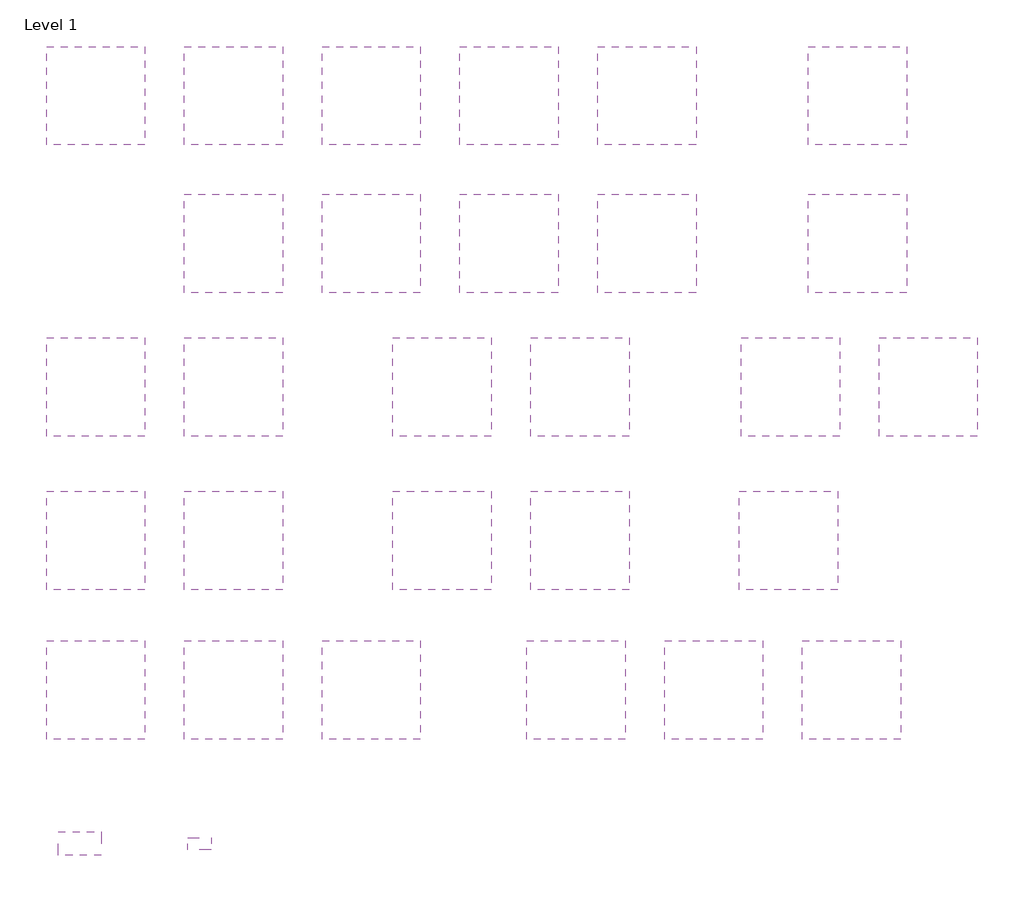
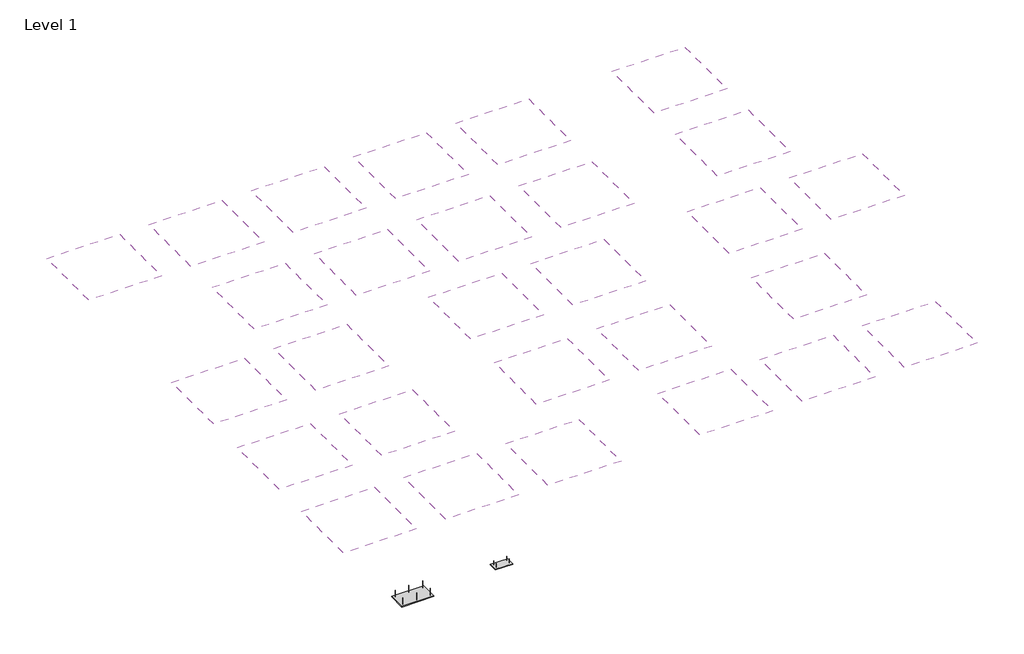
# One storey: 28 coverings, 2 proxies.
"""IFC4 building model written with IfcOpenShell, lengths in millimetres."""

from ifc_helpers import new_model, si_unit, frame, origin, place, context, project, spatial, polyline, outline, extrude, transform, mapped, element, save
from components import proxy_1200x2200mm_9f85cad4, proxy_1200x600mm_5f30a447

model = new_model("IFC4")

# Units and contexts
model_context = context("Model", 3, world=origin())
ifc_project = project(units=[si_unit("LENGTHUNIT", "METRE", prefix="MILLI")], contexts=[model_context])

# Site, building, storey
site = spatial("IfcSite", under=ifc_project)
building = spatial("IfcBuilding", under=site)
storey = spatial("IfcBuildingStorey", under=building, Name="Level 1", Elevation=0.0)

# Proxies
placement = place(None, origin())
proxy_1200x2200mm_shape = proxy_1200x2200mm_9f85cad4(model_context)
element("IfcBuildingElementProxy", 1, Name="Phonic Silence Cloud Panel : 1200x2200mm", ObjectType="Phonic Silence Cloud Panel : 1200x2200mm", at=placement, inside=storey, context=model_context, shape_type="MappedRepresentation", body=[
    mapped(proxy_1200x2200mm_shape, transform((-13614.1794993, -20300.5678495, 2600.0), x_axis=(1.0, 0.0, 0.0), y_axis=(0.0, -1.0, 0.0), z_axis=(0.0, 0.0, -1.0))),
])
proxy_1200x600mm_shape = proxy_1200x600mm_5f30a447(model_context)
element("IfcBuildingElementProxy", 2, Name="Phonic Silence Cloud Panel : 1200x600mm", ObjectType="Phonic Silence Cloud Panel : 1200x600mm", at=placement, inside=storey, context=model_context, shape_type="MappedRepresentation", body=[
    mapped(proxy_1200x600mm_shape, transform((-7534.1794993, -20300.5678495, 2600.0), x_axis=(1.0, 0.0, 0.0), y_axis=(0.0, -1.0, 0.0), z_axis=(0.0, 0.0, -1.0))),
])

# Coverings
element("IfcCovering", 3, ObjectType="Phonic Absorb 600x600mm", at=placement, inside=storey, context=model_context, shape_type="SweptSolid", body=[
    extrude(outline(polyline([(-10300.0, 15200.0), (-15300.0, 15200.0), (-15300.0, 20200.0), (-10300.0, 20200.0), (-10300.0, 15200.0)])), frame((0.0, 0.0, 2600.0), z_axis=(0.0, 0.0, 1.0), x_axis=(1.0, 0.0, 0.0)), (0.0, 0.0, 1.0), 38.0),
])
element("IfcCovering", 4, ObjectType="Phonic Combo+ 1200x300mm", at=placement, inside=storey, context=model_context, shape_type="SweptSolid", body=[
    extrude(outline(polyline([(-3300.0, 7700.0), (-8300.0, 7700.0), (-8300.0, 12700.0), (-3300.0, 12700.0), (-3300.0, 7700.0)])), frame((0.0, 0.0, 2600.0), z_axis=(0.0, 0.0, 1.0), x_axis=(1.0, 0.0, 0.0)), (0.0, 0.0, 1.0), 38.0),
])
element("IfcCovering", 5, ObjectType="Phonic Absorb 1200x300mm", at=placement, inside=storey, context=model_context, shape_type="SweptSolid", body=[
    extrude(outline(polyline([(-3300.0, 15200.0), (-8300.0, 15200.0), (-8300.0, 20200.0), (-3300.0, 20200.0), (-3300.0, 15200.0)])), frame((0.0, 0.0, 2600.0), z_axis=(0.0, 0.0, 1.0), x_axis=(1.0, 0.0, 0.0)), (0.0, 0.0, 1.0), 38.0),
])
element("IfcCovering", 6, ObjectType="Phonic Combo+ 1200x600mm", at=placement, inside=storey, context=model_context, shape_type="SweptSolid", body=[
    extrude(outline(polyline([(3700.0, 7700.0), (-1300.0, 7700.0), (-1300.0, 12700.0), (3700.0, 12700.0), (3700.0, 7700.0)])), frame((0.0, 0.0, 2600.0), z_axis=(0.0, 0.0, 1.0), x_axis=(1.0, 0.0, 0.0)), (0.0, 0.0, 1.0), 38.0),
])
element("IfcCovering", 7, ObjectType="Phonic Absorb 1200x600mm", at=placement, inside=storey, context=model_context, shape_type="SweptSolid", body=[
    extrude(outline(polyline([(3700.0, 15200.0), (-1300.0, 15200.0), (-1300.0, 20200.0), (3700.0, 20200.0), (3700.0, 15200.0)])), frame((0.0, 0.0, 2600.0), z_axis=(0.0, 0.0, 1.0), x_axis=(1.0, 0.0, 0.0)), (0.0, 0.0, 1.0), 38.0),
])
element("IfcCovering", 8, ObjectType="Phonic Combo+ 1500x300mm", at=placement, inside=storey, context=model_context, shape_type="SweptSolid", body=[
    extrude(outline(polyline([(10700.0, 7700.0), (5700.0, 7700.0), (5700.0, 12700.0), (10700.0, 12700.0), (10700.0, 7700.0)])), frame((0.0, 0.0, 2600.0), z_axis=(0.0, 0.0, 1.0), x_axis=(1.0, 0.0, 0.0)), (0.0, 0.0, 1.0), 38.0),
])
element("IfcCovering", 9, ObjectType="Phonic Absorb 1500x300mm", at=placement, inside=storey, context=model_context, shape_type="SweptSolid", body=[
    extrude(outline(polyline([(10700.0, 15200.0), (5700.0, 15200.0), (5700.0, 20200.0), (10700.0, 20200.0), (10700.0, 15200.0)])), frame((0.0, 0.0, 2600.0), z_axis=(0.0, 0.0, 1.0), x_axis=(1.0, 0.0, 0.0)), (0.0, 0.0, 1.0), 38.0),
])
element("IfcCovering", 10, ObjectType="Phonic Combo+ 2400x600mm", at=placement, inside=storey, context=model_context, shape_type="SweptSolid", body=[
    extrude(outline(polyline([(17700.0, 7700.0), (12700.0, 7700.0), (12700.0, 12700.0), (17700.0, 12700.0), (17700.0, 7700.0)])), frame((0.0, 0.0, 2600.0), z_axis=(0.0, 0.0, 1.0), x_axis=(1.0, 0.0, 0.0)), (0.0, 0.0, 1.0), 38.0),
])
element("IfcCovering", 11, ObjectType="Phonic Absorb 2400x600mm", at=placement, inside=storey, context=model_context, shape_type="SweptSolid", body=[
    extrude(outline(polyline([(17700.0, 15200.0), (12700.0, 15200.0), (12700.0, 20200.0), (17700.0, 20200.0), (17700.0, 15200.0)])), frame((0.0, 0.0, 2600.0), z_axis=(0.0, 0.0, 1.0), x_axis=(1.0, 0.0, 0.0)), (0.0, 0.0, 1.0), 38.0),
])
element("IfcCovering", 12, ObjectType="Phonic Direct Fix 600x600mm", at=placement, inside=storey, context=model_context, shape_type="SweptSolid", body=[
    extrude(outline(polyline([(7300.0, 400.0), (2300.0, 400.0), (2300.0, 5400.0), (7300.0, 5400.0), (7300.0, 400.0)])), frame((0.0, 0.0, 2600.0), z_axis=(0.0, 0.0, 1.0), x_axis=(1.0, 0.0, 0.0)), (0.0, 0.0, 1.0), 20.0),
])
element("IfcCovering", 13, ObjectType="Phonic Direct Fix 1200x600mm", at=placement, inside=storey, context=model_context, shape_type="SweptSolid", body=[
    extrude(outline(polyline([(14300.0, 400.0), (9300.0, 400.0), (9300.0, 5400.0), (14300.0, 5400.0), (14300.0, 400.0)])), frame((0.0, 0.0, 2600.0), z_axis=(0.0, 0.0, 1.0), x_axis=(1.0, 0.0, 0.0)), (0.0, 0.0, 1.0), 20.0),
])
element("IfcCovering", 14, ObjectType="Phonic Direct Fix 600x600mm on 35mm Battens", at=placement, inside=storey, context=model_context, shape_type="SweptSolid", body=[
    extrude(outline(polyline([(25000.0, 400.0), (20000.0, 400.0), (20000.0, 5400.0), (25000.0, 5400.0), (25000.0, 400.0)])), frame((0.0, 0.0, 2600.0), z_axis=(0.0, 0.0, 1.0), x_axis=(1.0, 0.0, 0.0)), (0.0, 0.0, 1.0), 55.0),
])
element("IfcCovering", 15, ObjectType="Phonic Direct Fix 1200x600mm on 35mm Battens", at=placement, inside=storey, context=model_context, shape_type="SweptSolid", body=[
    extrude(outline(polyline([(32000.0, 400.0), (27000.0, 400.0), (27000.0, 5400.0), (32000.0, 5400.0), (32000.0, 400.0)])), frame((0.0, 0.0, 2600.0), z_axis=(0.0, 0.0, 1.0), x_axis=(1.0, 0.0, 0.0)), (0.0, 0.0, 1.0), 55.0),
])
element("IfcCovering", 16, ObjectType="Phonic Tech 1200x600", at=placement, inside=storey, context=model_context, shape_type="SweptSolid", body=[
    extrude(outline(polyline([(28400.0, 7700.0), (23400.0, 7700.0), (23400.0, 12700.0), (28400.0, 12700.0), (28400.0, 7700.0)])), frame((0.0, 0.0, 2600.0), z_axis=(0.0, 0.0, 1.0), x_axis=(1.0, 0.0, 0.0)), (0.0, 0.0, 1.0), 38.0),
])
element("IfcCovering", 17, ObjectType="Phonic Impact 1200x600mm", at=placement, inside=storey, context=model_context, shape_type="SweptSolid", body=[
    extrude(outline(polyline([(28400.0, 15200.0), (23400.0, 15200.0), (23400.0, 20200.0), (28400.0, 20200.0), (28400.0, 15200.0)])), frame((0.0, 0.0, 2600.0), z_axis=(0.0, 0.0, 1.0), x_axis=(1.0, 0.0, 0.0)), (0.0, 0.0, 1.0), 40.0),
])
element("IfcCovering", 18, ObjectType="Phonic Fine Fissured 600x600mm", at=placement, inside=storey, context=model_context, shape_type="SweptSolid", body=[
    extrude(outline(polyline([(-10300.0, -7400.0), (-15300.0, -7400.0), (-15300.0, -2400.0), (-10300.0, -2400.0), (-10300.0, -7400.0)])), frame((0.0, 0.0, 2600.0), z_axis=(0.0, 0.0, 1.0), x_axis=(1.0, 0.0, 0.0)), (0.0, 0.0, 1.0), 38.0),
])
element("IfcCovering", 19, ObjectType="Phonic Fine Fissured 1200x600mm", at=placement, inside=storey, context=model_context, shape_type="SweptSolid", body=[
    extrude(outline(polyline([(-3300.0, -7400.0), (-8300.0, -7400.0), (-8300.0, -2400.0), (-3300.0, -2400.0), (-3300.0, -7400.0)])), frame((0.0, 0.0, 2600.0), z_axis=(0.0, 0.0, 1.0), x_axis=(1.0, 0.0, 0.0)), (0.0, 0.0, 1.0), 38.0),
])
element("IfcCovering", 20, ObjectType="Phonic Gypsum Vinyl 1200x600", at=placement, inside=storey, context=model_context, shape_type="SweptSolid", body=[
    extrude(outline(polyline([(24900.0, -7400.0), (19900.0, -7400.0), (19900.0, -2400.0), (24900.0, -2400.0), (24900.0, -7400.0)])), frame((0.0, 0.0, 2600.0), z_axis=(0.0, 0.0, 1.0), x_axis=(1.0, 0.0, 0.0)), (0.0, 0.0, 1.0), 37.0),
])
element("IfcCovering", 21, ObjectType="Phonic NDF 600x600mm", at=placement, inside=storey, context=model_context, shape_type="SweptSolid", body=[
    extrude(outline(polyline([(7300.0, -7400.0), (2300.0, -7400.0), (2300.0, -2400.0), (7300.0, -2400.0), (7300.0, -7400.0)])), frame((0.0, 0.0, 2600.0), z_axis=(0.0, 0.0, 1.0), x_axis=(1.0, 0.0, 0.0)), (0.0, 0.0, 1.0), 38.0),
])
element("IfcCovering", 22, ObjectType="Phonic NDF 1200x600mm", at=placement, inside=storey, context=model_context, shape_type="SweptSolid", body=[
    extrude(outline(polyline([(14300.0, -7400.0), (9300.0, -7400.0), (9300.0, -2400.0), (14300.0, -2400.0), (14300.0, -7400.0)])), frame((0.0, 0.0, 2600.0), z_axis=(0.0, 0.0, 1.0), x_axis=(1.0, 0.0, 0.0)), (0.0, 0.0, 1.0), 38.0),
])
element("IfcCovering", 23, ObjectType="Phonic Harmony 600x600x15mm", at=placement, inside=storey, context=model_context, shape_type="SweptSolid", body=[
    extrude(outline(polyline([(-10300.0, -15000.0), (-15300.0, -15000.0), (-15300.0, -10000.0), (-10300.0, -10000.0), (-10300.0, -15000.0)])), frame((0.0, 0.0, 2600.0), z_axis=(0.0, 0.0, 1.0), x_axis=(1.0, 0.0, 0.0)), (0.0, 0.0, 1.0), 38.0),
])
element("IfcCovering", 24, ObjectType="Phonic Harmony 1200x300x15mm", at=placement, inside=storey, context=model_context, shape_type="SweptSolid", body=[
    extrude(outline(polyline([(-3300.0, -15000.0), (-8300.0, -15000.0), (-8300.0, -10000.0), (-3300.0, -10000.0), (-3300.0, -15000.0)])), frame((0.0, 0.0, 2600.0), z_axis=(0.0, 0.0, 1.0), x_axis=(1.0, 0.0, 0.0)), (0.0, 0.0, 1.0), 38.0),
])
element("IfcCovering", 25, ObjectType="Phonic Harmony 1200x600x15mm", at=placement, inside=storey, context=model_context, shape_type="SweptSolid", body=[
    extrude(outline(polyline([(3700.0, -15000.0), (-1300.0, -15000.0), (-1300.0, -10000.0), (3700.0, -10000.0), (3700.0, -15000.0)])), frame((0.0, 0.0, 2600.0), z_axis=(0.0, 0.0, 1.0), x_axis=(1.0, 0.0, 0.0)), (0.0, 0.0, 1.0), 38.0),
])
element("IfcCovering", 26, ObjectType="Phonic Harmony 600x600x19mm", at=placement, inside=storey, context=model_context, shape_type="SweptSolid", body=[
    extrude(outline(polyline([(14100.0, -15000.0), (9100.0, -15000.0), (9100.0, -10000.0), (14100.0, -10000.0), (14100.0, -15000.0)])), frame((0.0, 0.0, 2600.0), z_axis=(0.0, 0.0, 1.0), x_axis=(1.0, 0.0, 0.0)), (0.0, 0.0, 1.0), 38.0),
])
element("IfcCovering", 27, ObjectType="Phonic Harmony 1200x300x19mm", at=placement, inside=storey, context=model_context, shape_type="SweptSolid", body=[
    extrude(outline(polyline([(21100.0, -15000.0), (16100.0, -15000.0), (16100.0, -10000.0), (21100.0, -10000.0), (21100.0, -15000.0)])), frame((0.0, 0.0, 2600.0), z_axis=(0.0, 0.0, 1.0), x_axis=(1.0, 0.0, 0.0)), (0.0, 0.0, 1.0), 38.0),
])
element("IfcCovering", 28, ObjectType="Phonic Harmony 1200x600x19mm", at=placement, inside=storey, context=model_context, shape_type="SweptSolid", body=[
    extrude(outline(polyline([(28100.0, -15000.0), (23100.0, -15000.0), (23100.0, -10000.0), (28100.0, -10000.0), (28100.0, -15000.0)])), frame((0.0, 0.0, 2600.0), z_axis=(0.0, 0.0, 1.0), x_axis=(1.0, 0.0, 0.0)), (0.0, 0.0, 1.0), 38.0),
])
element("IfcCovering", 29, ObjectType="Phonic Dai Lotone 606x303mm non-ribbed", at=placement, inside=storey, context=model_context, shape_type="SweptSolid", body=[
    extrude(outline(polyline([(-10300.0, 400.0), (-15300.0, 400.0), (-15300.0, 5400.0), (-10300.0, 5400.0), (-10300.0, 400.0)])), frame((0.0, 0.0, 2600.0), z_axis=(0.0, 0.0, 1.0), x_axis=(1.0, 0.0, 0.0)), (0.0, 0.0, 1.0), 9.0),
])
element("IfcCovering", 30, ObjectType="Phonic Dai Lotone 606x303mm ribbed", at=placement, inside=storey, context=model_context, shape_type="SweptSolid", body=[
    extrude(outline(polyline([(-3300.0, 400.0), (-8300.0, 400.0), (-8300.0, 5400.0), (-3300.0, 5400.0), (-3300.0, 400.0)])), frame((0.0, 0.0, 2600.0), z_axis=(0.0, 0.0, 1.0), x_axis=(1.0, 0.0, 0.0)), (0.0, 0.0, 1.0), 12.0),
])

save(model, "model.ifc")
